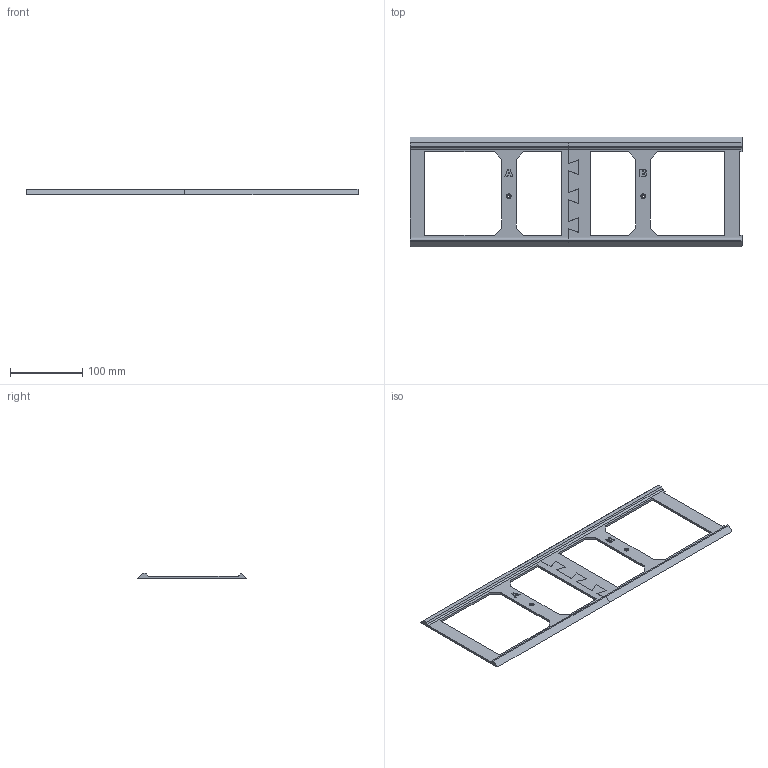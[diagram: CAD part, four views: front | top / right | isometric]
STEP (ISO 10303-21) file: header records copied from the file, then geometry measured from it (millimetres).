
FILE_DESCRIPTION(/* description */ (''),/* implementation_level */ '2;1');
FILE_NAME(/* name */ 'Frankenholder v7.step',/* time_stamp */ '2025-08-09T18:13:02+01:00',/* author */ (''),/* organization */ (''),/* preprocessor_version */ 'ST-DEVELOPER v20.1',/* originating_system */ 'Autodesk Translation Framework v14.10.0.0',/* authorisation */ '');
FILE_SCHEMA (('AUTOMOTIVE_DESIGN { 1 0 10303 214 3 1 1 }'));
Length unit declared in the file: millimetre
Products named in the file (1): Frankenholder
Bounding box: 459 x 150.88 x 7 mm (x, y, z)
Volume: 112600.2 mm3; surface area: 73078.8 mm2
Topology: 2 solids, 2 shells, 136 faces, 373 edges, 249 vertices
Faces by surface type: plane 110, bspline 18, cylinder 8
Full cylindrical faces by diameter (mm): 3.3 x2, 6.5 x2
Entity records: 4467 total; most frequent: CARTESIAN_POINT 1065, ORIENTED_EDGE 746, DIRECTION 592, EDGE_CURVE 373, LINE 320, VECTOR 320, VERTEX_POINT 249, EDGE_LOOP 156
